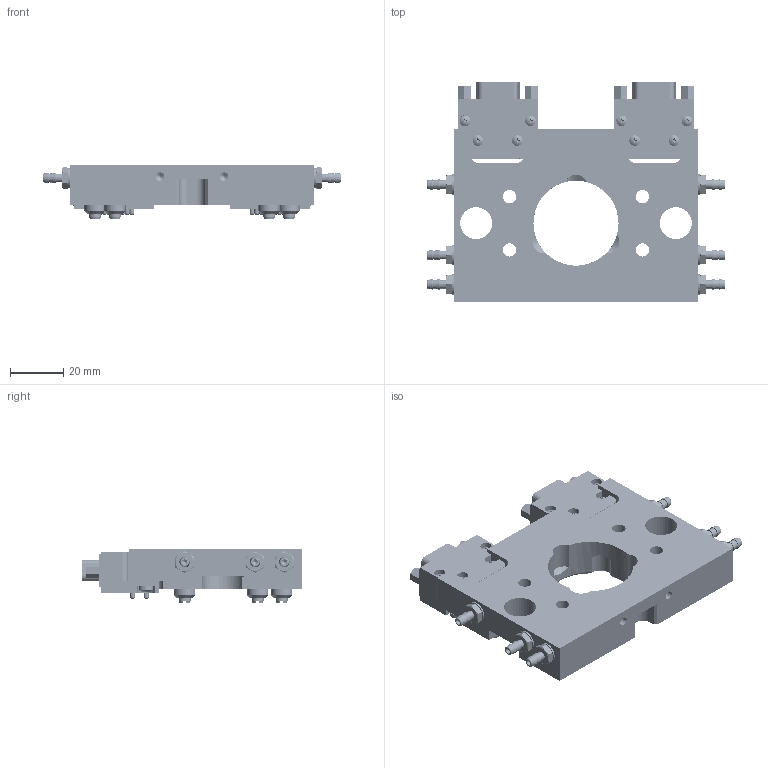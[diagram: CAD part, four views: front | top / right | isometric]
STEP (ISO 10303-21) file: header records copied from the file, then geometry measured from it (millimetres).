
FILE_DESCRIPTION (( 'STEP AP203' ), '1' );
FILE_NAME ('QCA-S10G.STEP', '2024-03-20T06:21:40', ( '微软用户' ), ( '微软中国' ), 'SwSTEP 2.0', 'SolidWorks 2018', '' );
FILE_SCHEMA (( 'CONFIG_CONTROL_DESIGN' ));
Products named in the file (1): QCA-S10G
Bounding box: 112 x 82.47 x 20.5 mm (x, y, z)
Volume: 81041.8 mm3; surface area: 38973 mm2
Topology: 39 solids, 39 shells, 3688 faces, 8082 edges, 4548 vertices
Faces by surface type: cone 1644, cylinder 1250, plane 632, bspline 86, sphere 60, torus 16
Entity records: 103174 total; most frequent: CARTESIAN_POINT 22159, DIRECTION 18277, ORIENTED_EDGE 15948, EDGE_CURVE 7974, AXIS2_PLACEMENT_3D 7212, VERTEX_POINT 4512, EDGE_LOOP 3922, LINE 3853
